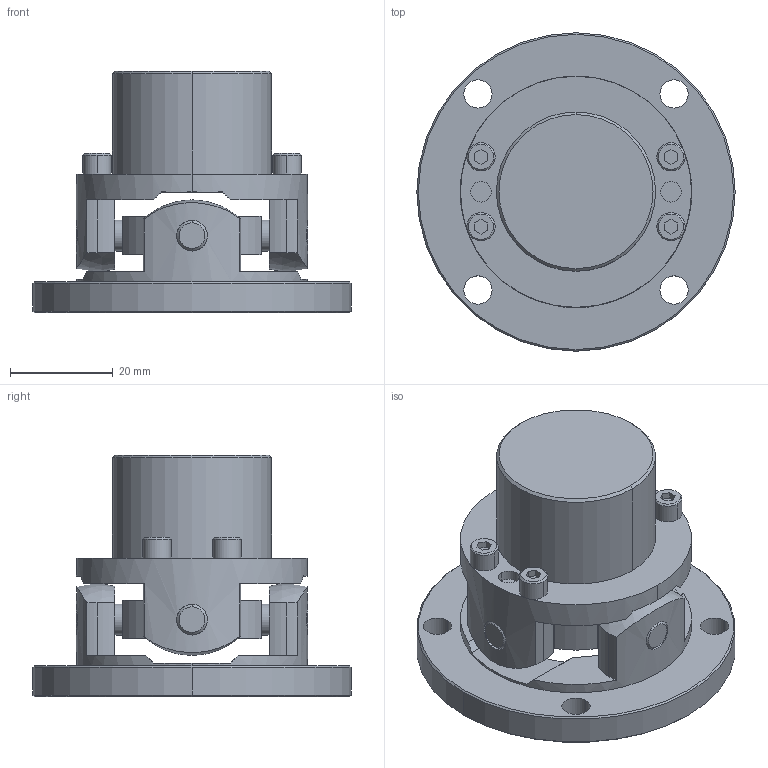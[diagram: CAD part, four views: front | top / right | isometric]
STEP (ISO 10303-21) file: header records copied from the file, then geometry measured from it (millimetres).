
FILE_DESCRIPTION((''),'2;1');
FILE_NAME('UCRF-45.stp','2013-05-13T09:16:14',(''),(''),'AutoCAD STEP 2000i','AutoCAD 2000i',', , ');
FILE_SCHEMA(('CONFIG_CONTROL_DESIGN'));
Length unit declared in the file: millimetre
Products named in the file (7): UCRF-45; 忣兜1; UCR-4502; UCNF-4502; UCN45-B010-1; UCN45-B010; UCN45-SEN
Assembly tree (6 placements, depth 2):
  UCRF-45
    忣兜1
    UCR-4502
    UCNF-4502
    UCN45-B010-1
    UCN45-B010
    UCN45-SEN
Bounding box: 62 x 62 x 47 mm (x, y, z)
Volume: 47069.2 mm3; surface area: 18320.5 mm2
Topology: 1 solids, 1 shells, 235 faces, 578 edges, 378 vertices
Faces by surface type: plane 107, cylinder 90, cone 34, sphere 4
Entity records: 7559 total; most frequent: CARTESIAN_POINT 1570, DIRECTION 1302, ORIENTED_EDGE 1156, EDGE_CURVE 578, AXIS2_PLACEMENT_3D 498, VERTEX_POINT 378, VECTOR 306, LINE 306
